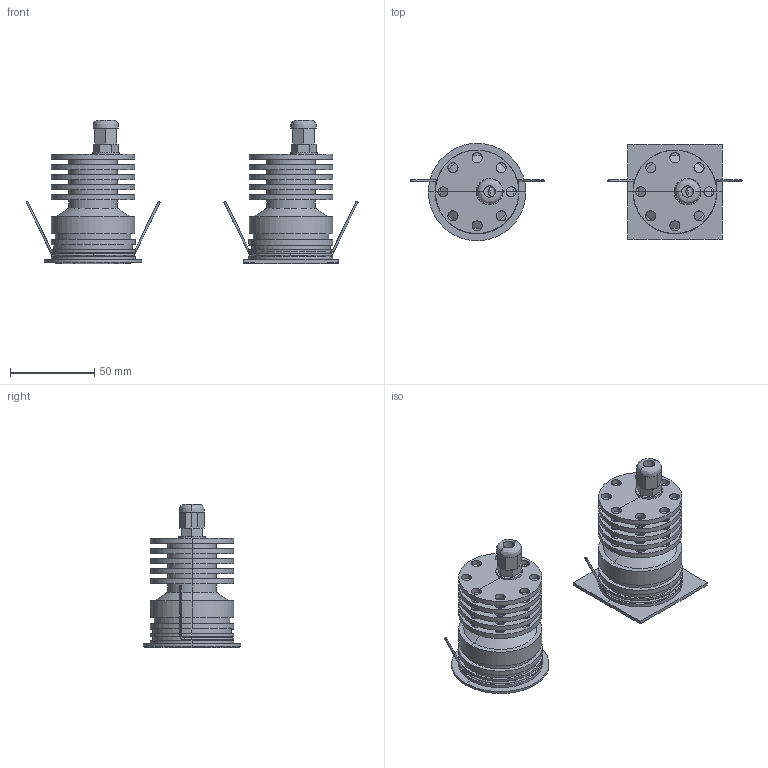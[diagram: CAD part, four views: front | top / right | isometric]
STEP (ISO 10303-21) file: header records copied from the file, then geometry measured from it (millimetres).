
FILE_DESCRIPTION(/* description */ (''),/* implementation_level */ '2;1');
FILE_NAME(/* name */ 'Mist 6',/* time_stamp */ '2025-06-18T18:12:51+02:00',/* author */ (''),/* organization */ (''),/* preprocessor_version */ 'ST-DEVELOPER v15',/* originating_system */ '',/* authorisation */ '');
FILE_SCHEMA (('CONFIG_CONTROL_DESIGN'));
Length unit declared in the file: millimetre
Products named in the file (1): Document
Bounding box: 197.37 x 57.9 x 85.05 mm (x, y, z)
Volume: 167884.3 mm3; surface area: 92625.8 mm2
Topology: 14 solids, 14 shells, 864 faces, 2098 edges, 1202 vertices
Faces by surface type: bspline 864
Entity records: 67831 total; most frequent: CARTESIAN_POINT 41788, B_SPLINE_CURVE_WITH_KNOTS 4959, ORIENTED_EDGE 4164, PCURVE 4164, DEFINITIONAL_REPRESENTATION 4164, SURFACE_CURVE 2082, EDGE_CURVE 2082, VERTEX_POINT 1198
